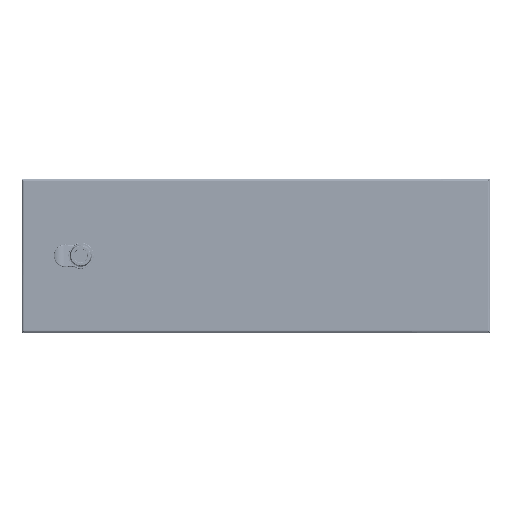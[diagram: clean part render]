
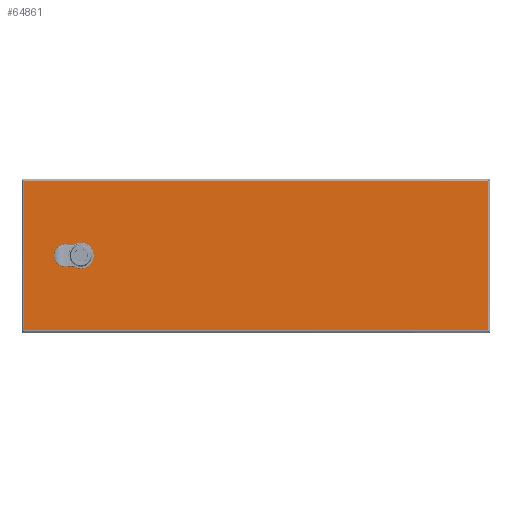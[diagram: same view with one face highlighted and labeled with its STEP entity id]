
A CAD part, top view. The second image highlights one B-rep face of the part: STEP entity #64861.
In plain terms, the highlighted planar face has unit normal (0, 0, 1).
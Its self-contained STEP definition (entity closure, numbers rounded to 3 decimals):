
#58731=CARTESIAN_POINT(' ',(289.389,97.733,233.253));
#58732=VERTEX_POINT(' ',#58731);
#59466=CARTESIAN_POINT(' ',(289.389,-91.667,233.253));
#59467=VERTEX_POINT(' ',#59466);
#60441=CARTESIAN_POINT(' ',(289.389,97.733,233.253));
#60446=DIRECTION(' ',(0.,-1.,0.));
#60451=VECTOR(' ',#60446,1.);
#60456=LINE('',#60441,#60451);
#60461=EDGE_CURVE(' ',#58732,#59467,#60456,.T.);
#62706=CARTESIAN_POINT(' ',(-299.011,-91.667,233.253));
#62707=VERTEX_POINT(' ',#62706);
#63321=CARTESIAN_POINT(' ',(-299.011,97.733,233.253));
#63322=VERTEX_POINT(' ',#63321);
#64731=DIRECTION(' ',(-0.,-0.,1.));
#64736=CARTESIAN_POINT(' ',(289.389,-91.667,233.253));
#64741=DIRECTION(' ',(0.,1.,0.));
#64746=AXIS2_PLACEMENT_3D(' ',#64736,#64731,#64741);
#64751=PLANE('NONE',#64746);
#64756=CARTESIAN_POINT(' ',(-299.011,-91.667,233.253));
#64761=DIRECTION(' ',(1.,0.,0.));
#64766=VECTOR(' ',#64761,1.);
#64771=LINE('',#64756,#64766);
#64776=EDGE_CURVE(' ',#62707,#59467,#64771,.T.);
#64781=ORIENTED_EDGE(' ',*,*,#64776,.T.);
#64786=ORIENTED_EDGE(' ',*,*,#60461,.F.);
#64791=CARTESIAN_POINT(' ',(289.389,97.733,233.253));
#64796=DIRECTION(' ',(-1.,0.,0.));
#64801=VECTOR(' ',#64796,1.);
#64806=LINE('',#64791,#64801);
#64811=EDGE_CURVE(' ',#58732,#63322,#64806,.T.);
#64816=ORIENTED_EDGE(' ',*,*,#64811,.T.);
#64821=CARTESIAN_POINT(' ',(-299.011,97.733,233.253));
#64826=DIRECTION(' ',(0.,-1.,0.));
#64831=VECTOR(' ',#64826,1.);
#64836=LINE('',#64821,#64831);
#64841=EDGE_CURVE(' ',#63322,#62707,#64836,.T.);
#64846=ORIENTED_EDGE(' ',*,*,#64841,.T.);
#64851=EDGE_LOOP(' ',(#64781,#64786,#64816,#64846));
#64856=FACE_OUTER_BOUND(' ',#64851,.T.);
#64861=ADVANCED_FACE('NONE',(#64856),#64751,.T.);
